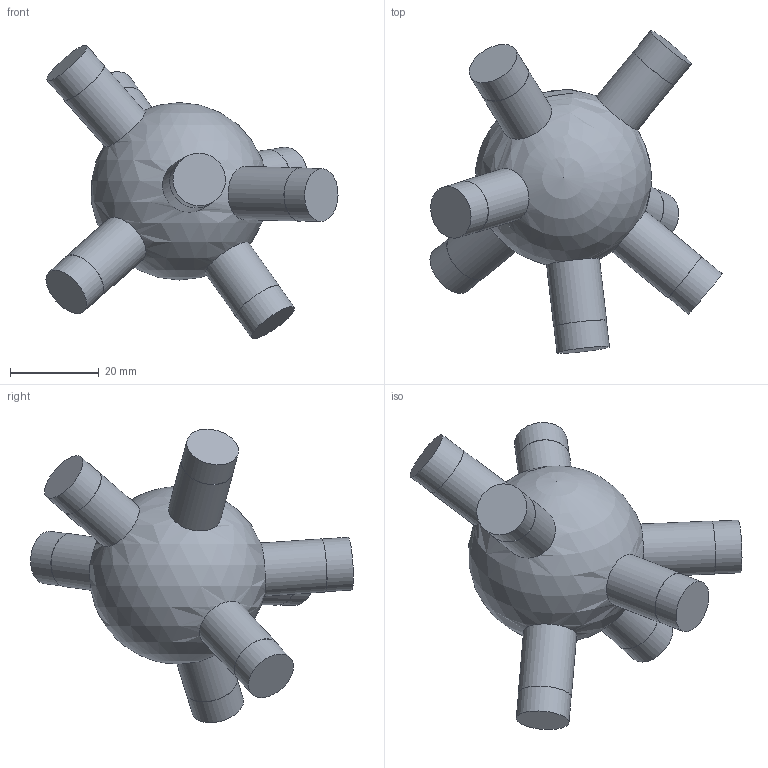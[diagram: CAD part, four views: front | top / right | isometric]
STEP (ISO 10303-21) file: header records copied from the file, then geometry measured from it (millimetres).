
FILE_DESCRIPTION(('Open CASCADE Model'),'2;1');
FILE_NAME('Open CASCADE Shape Model','2026-10-21T12:47:57',('Author'),( 'Open CASCADE'),'Open CASCADE STEP processor 7.9','Open CASCADE 7.9' ,'Unknown');
FILE_SCHEMA(('AUTOMOTIVE_DESIGN { 1 0 10303 214 1 1 1 1 }'));
Length unit declared in the file: millimetre
Products named in the file (1): Open CASCADE STEP translator 7.9 146
Bounding box: 65.86 x 72.77 x 66.2 mm (x, y, z)
Volume: 48839 mm3; surface area: 10253 mm2
Topology: 1 solids, 1 shells, 29 faces, 47 edges, 32 vertices
Faces by surface type: cylinder 14, plane 14, sphere 1
Full cylindrical faces by diameter (mm): 11.9 x7, 12 x7
Entity records: 1710 total; most frequent: CARTESIAN_POINT 636, DIRECTION 221, ORIENTED_EDGE 92, PCURVE 92, DEFINITIONAL_REPRESENTATION 92, LINE 76, VECTOR 76, AXIS2_PLACEMENT_3D 62
